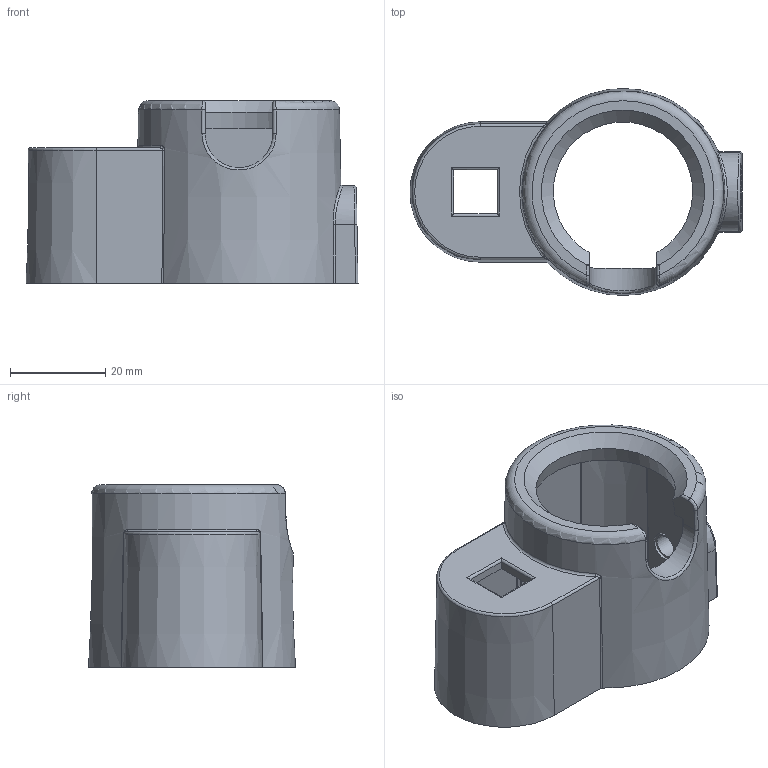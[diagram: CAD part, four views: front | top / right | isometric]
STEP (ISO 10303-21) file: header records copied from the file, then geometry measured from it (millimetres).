
FILE_DESCRIPTION(/* description */ (''),/* implementation_level */ '2;1');
FILE_NAME(/* name */ 'H:\5-Olympiades\47e\Sujet Régional\Etau\A donner aux candidats\2-Après-Midi\12-Noix2.stp',/* time_stamp */ '2022-03-30T09:08:41+02:00',/* author */ ('Philippe'),/* organization */ (''),/* preprocessor_version */ 'ST-DEVELOPER v18',/* originating_system */ 'Autodesk Inventor 2020',/* authorisation */ '');
FILE_SCHEMA (('CONFIG_CONTROL_DESIGN'));
Length unit declared in the file: millimetre
Products named in the file (1): 12-Noix
Bounding box: 69.75 x 43.5 x 38.4 mm (x, y, z)
Volume: 20687.4 mm3; surface area: 14223.8 mm2
Topology: 1 solids, 2 shells, 86 faces, 230 edges, 146 vertices
Faces by surface type: bspline 29, plane 23, cylinder 16, torus 9, cone 8, sphere 1
Full cylindrical faces by diameter (mm): 4.917 x1
Entity records: 3787 total; most frequent: CARTESIAN_POINT 1777, ORIENTED_EDGE 456, DIRECTION 345, EDGE_CURVE 230, VERTEX_POINT 146, AXIS2_PLACEMENT_3D 143, EDGE_LOOP 91, FACE_OUTER_BOUND 86
